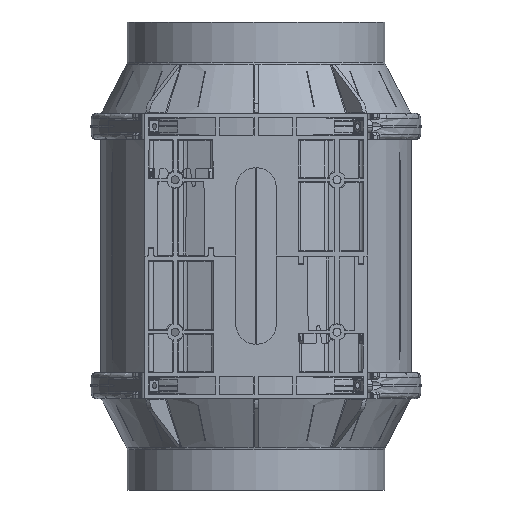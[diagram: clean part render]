
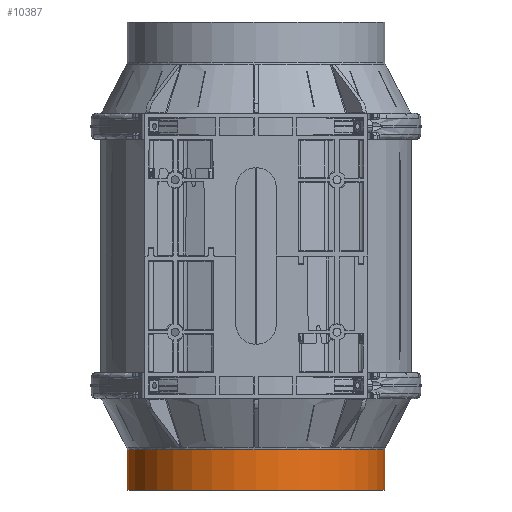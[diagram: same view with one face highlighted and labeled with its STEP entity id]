
A CAD part, front view. The second image highlights one B-rep face of the part: STEP entity #10387.
In plain terms, the highlighted cylindrical face has radius 79.5 mm (diameter 159 mm), a partial arc.
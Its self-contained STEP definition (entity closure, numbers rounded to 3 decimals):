
#1508 = VERTEX_POINT ( 'NONE', #3683 ) ;
#1625 = VERTEX_POINT ( 'NONE', #20120 ) ;
#1720 = VERTEX_POINT ( 'NONE', #72390 ) ;
#2005 = VERTEX_POINT ( 'NONE', #70530 ) ;
#3683 = CARTESIAN_POINT ( 'NONE',  ( -79.5, 0., -251.514 ) ) ;
#3928 = AXIS2_PLACEMENT_3D ( 'NONE', #42918, #42916, #42907 ) ;
#10387 = ADVANCED_FACE ( 'NONE', ( #46656 ), #46660, .T. ) ;
#13110 = EDGE_LOOP ( 'NONE', ( #14832, #14834, #14836, #14838 ) ) ;
#14832 = ORIENTED_EDGE ( 'NONE', *, *, #30389, .T. ) ;
#14834 = ORIENTED_EDGE ( 'NONE', *, *, #30391, .T. ) ;
#14836 = ORIENTED_EDGE ( 'NONE', *, *, #30393, .F. ) ;
#14838 = ORIENTED_EDGE ( 'NONE', *, *, #30395, .F. ) ;
#20120 = CARTESIAN_POINT ( 'NONE',  ( 79.5, 0., -251.514 ) ) ;
#30389 = EDGE_CURVE ( 'NONE', #1625, #1508, #63340, .T. ) ;
#30391 = EDGE_CURVE ( 'NONE', #1508, #1720, #63339, .T. ) ;
#30393 = EDGE_CURVE ( 'NONE', #2005, #1720, #63344, .T. ) ;
#30395 = EDGE_CURVE ( 'NONE', #1625, #2005, #63346, .T. ) ;
#34192 = CARTESIAN_POINT ( 'NONE',  ( 79.5, 0., -286.842 ) ) ;
#34196 = DIRECTION ( 'NONE',  ( 0., 0., -1. ) ) ;
#34200 = DIRECTION ( 'NONE',  ( 0., 0., -1. ) ) ;
#34201 = CARTESIAN_POINT ( 'NONE',  ( -79.5, 0., -286.842 ) ) ;
#34202 = CARTESIAN_POINT ( 'NONE',  ( 0., 0., -251.514 ) ) ;
#34203 = DIRECTION ( 'NONE',  ( 0., 0., -1. ) ) ;
#34204 = DIRECTION ( 'NONE',  ( 1., 0., 0. ) ) ;
#34206 = CARTESIAN_POINT ( 'NONE',  ( 0., 0., -276.514 ) ) ;
#34207 = DIRECTION ( 'NONE',  ( 0., 0., -1. ) ) ;
#34208 = DIRECTION ( 'NONE',  ( 1., 0., 0. ) ) ;
#42907 = DIRECTION ( 'NONE',  ( 1., 0., 0. ) ) ;
#42916 = DIRECTION ( 'NONE',  ( 0., 0., -1. ) ) ;
#42918 = CARTESIAN_POINT ( 'NONE',  ( 0., 0., -286.842 ) ) ;
#46656 = FACE_OUTER_BOUND ( 'NONE', #13110, .T. ) ;
#46660 = CYLINDRICAL_SURFACE ( 'NONE', #3928, 79.5 ) ;
#60932 = AXIS2_PLACEMENT_3D ( 'NONE', #34202, #34203, #34204 ) ;
#60934 = AXIS2_PLACEMENT_3D ( 'NONE', #34206, #34207, #34208 ) ;
#63339 = LINE ( 'NONE', #34201, #63345 ) ;
#63340 = CIRCLE ( 'NONE', #60932, 79.5 ) ;
#63344 = CIRCLE ( 'NONE', #60934, 79.5 ) ;
#63345 = VECTOR ( 'NONE', #34196, 1000. ) ;
#63346 = LINE ( 'NONE', #34192, #63349 ) ;
#63349 = VECTOR ( 'NONE', #34200, 1000. ) ;
#70530 = CARTESIAN_POINT ( 'NONE',  ( 79.5, 0., -276.514 ) ) ;
#72390 = CARTESIAN_POINT ( 'NONE',  ( -79.5, 0., -276.514 ) ) ;
